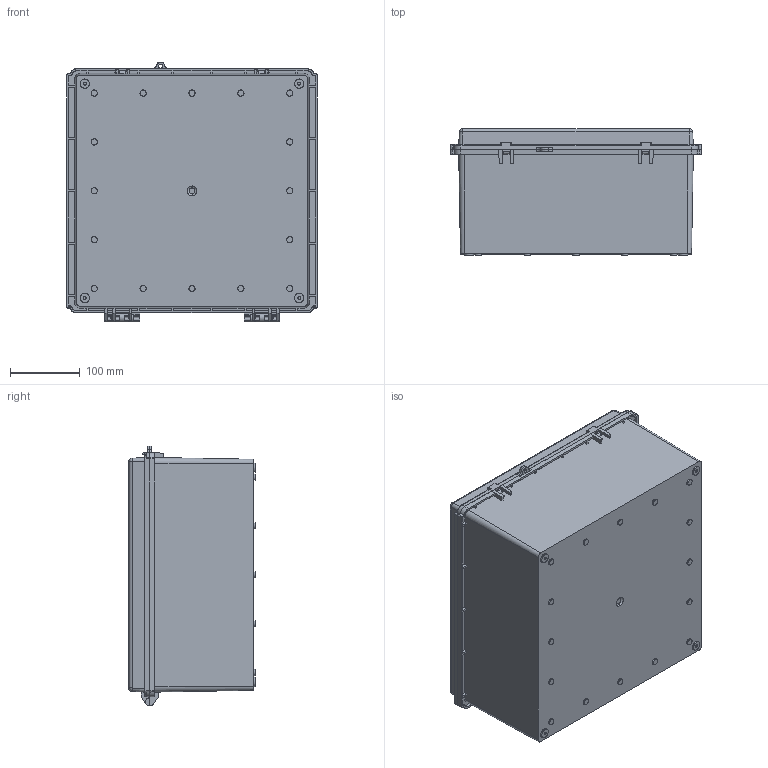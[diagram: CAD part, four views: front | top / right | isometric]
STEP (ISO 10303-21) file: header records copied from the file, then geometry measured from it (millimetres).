
FILE_DESCRIPTION (( 'STEP AP203' ), '1' );
FILE_NAME ('EC-3535-18.STEP', '2022-01-12T09:27:31', ( '' ), ( '' ), 'SwSTEP 2.0', 'SolidWorks 2021', '' );
FILE_SCHEMA (( 'CONFIG_CONTROL_DESIGN' ));
Length unit declared in the file: millimetre
Products named in the file (3): EC-3535-18; EC-3535-P-1; EC-3535-P-3-15
Assembly tree (2 placements, depth 2):
  EC-3535-18
    EC-3535-P-3-15
    EC-3535-P-1
Bounding box: 359 x 181.05 x 372.4 mm (x, y, z)
Volume: 1649227.3 mm3; surface area: 993290.9 mm2
Topology: 2 solids, 2 shells, 709 faces, 1845 edges, 1184 vertices
Faces by surface type: plane 422, cone 116, cylinder 116, bspline 36, torus 10, sphere 9
Entity records: 22933 total; most frequent: CARTESIAN_POINT 5636, ORIENTED_EDGE 3668, DIRECTION 3364, EDGE_CURVE 1834, LINE 1232, VECTOR 1232, VERTEX_POINT 1182, AXIS2_PLACEMENT_3D 1066
